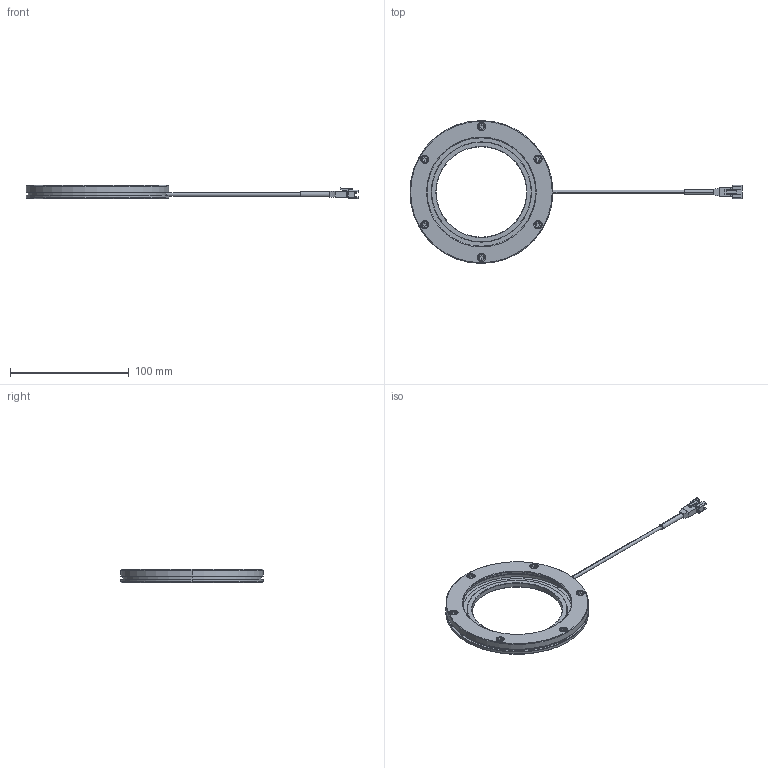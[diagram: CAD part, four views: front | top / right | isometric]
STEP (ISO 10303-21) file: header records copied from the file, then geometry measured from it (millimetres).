
FILE_DESCRIPTION(('STEP AP214'),'1');
FILE_NAME('VHR-12076_DRAWING_3D.step','2023-10-03T02:06:27',(' '),(' '),'Spatial InterOp 3D',' ',' ');
FILE_SCHEMA(('AUTOMOTIVE_DESIGN { 1 0 10303 214 1 1 1 1 }'));
Length unit declared in the file: millimetre
Products named in the file (5): SIDE LIGHT BASE LEVEL1; LENS COVER LEVEL1; ______ __________ M3 x 5; SM 2.5 CABLE 2P
Assembly tree (9 placements, depth 2):
  (unnamed)
    SIDE LIGHT BASE LEVEL1
    LENS COVER LEVEL1
    ______ __________ M3 x 5  x6
    SM 2.5 CABLE 2P
Bounding box: 279 x 120 x 11 mm (x, y, z)
Volume: 49999.8 mm3; surface area: 36099.3 mm2
Topology: 10 solids, 10 shells, 486 faces, 1118 edges, 701 vertices
Faces by surface type: plane 260, cylinder 153, cone 40, torus 28, bspline 5
Entity records: 13673 total; most frequent: CARTESIAN_POINT 2311, DIRECTION 1790, ORIENTED_EDGE 1696, EDGE_CURVE 848, AXIS2_PLACEMENT_3D 629, VERTEX_POINT 541, LINE 532, VECTOR 532
